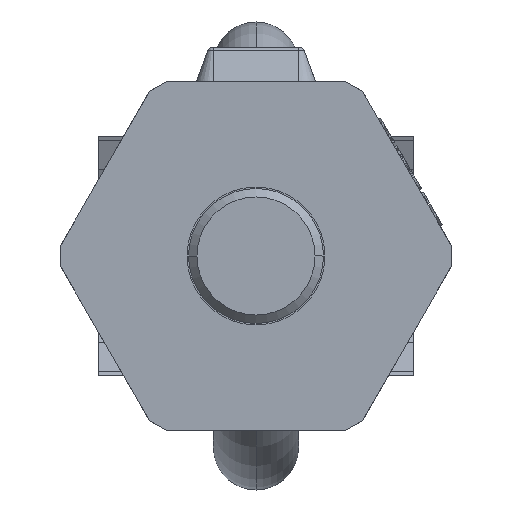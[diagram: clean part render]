
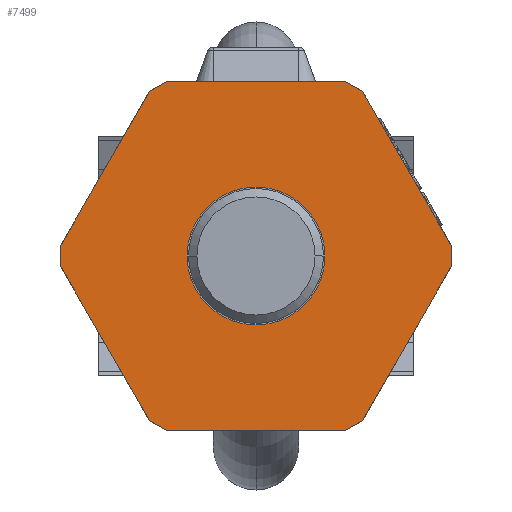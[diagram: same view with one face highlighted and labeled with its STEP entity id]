
A CAD part, front view. The second image highlights one B-rep face of the part: STEP entity #7499.
In plain terms, the highlighted planar face has unit normal (0, -1, 0) as drawn and (0, 0, -1) by its records, which use the part's own axes.
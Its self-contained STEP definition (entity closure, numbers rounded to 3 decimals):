
#1=DIRECTION('',(0.,-1.,0.));
#2=VECTOR('',#1,2.326);
#3=CARTESIAN_POINT('',(-23.,1.163,0.));
#4=LINE('',#3,#2);
#5=DIRECTION('',(0.5,-0.866,0.));
#6=VECTOR('',#5,20.986);
#7=CARTESIAN_POINT('',(-23.,-1.163,0.));
#8=LINE('',#7,#6);
#9=DIRECTION('',(0.866,-0.5,0.));
#10=VECTOR('',#9,2.326);
#11=CARTESIAN_POINT('',(-12.507,-19.337,0.));
#12=LINE('',#11,#10);
#13=DIRECTION('',(1.,0.,0.));
#14=VECTOR('',#13,20.986);
#15=CARTESIAN_POINT('',(-10.493,-20.5,0.));
#16=LINE('',#15,#14);
#17=DIRECTION('',(0.866,0.5,0.));
#18=VECTOR('',#17,2.326);
#19=CARTESIAN_POINT('',(10.493,-20.5,0.));
#20=LINE('',#19,#18);
#21=DIRECTION('',(0.5,0.866,0.));
#22=VECTOR('',#21,20.986);
#23=CARTESIAN_POINT('',(12.507,-19.337,0.));
#24=LINE('',#23,#22);
#25=DIRECTION('',(0.,1.,0.));
#26=VECTOR('',#25,2.326);
#27=CARTESIAN_POINT('',(23.,-1.163,0.));
#28=LINE('',#27,#26);
#29=DIRECTION('',(-0.5,0.866,0.));
#30=VECTOR('',#29,20.986);
#31=CARTESIAN_POINT('',(23.,1.163,0.));
#32=LINE('',#31,#30);
#33=DIRECTION('',(-0.866,0.5,0.));
#34=VECTOR('',#33,2.326);
#35=CARTESIAN_POINT('',(12.507,19.337,0.));
#36=LINE('',#35,#34);
#37=DIRECTION('',(-1.,0.,0.));
#38=VECTOR('',#37,20.986);
#39=CARTESIAN_POINT('',(10.493,20.5,0.));
#40=LINE('',#39,#38);
#41=DIRECTION('',(-0.866,-0.5,0.));
#42=VECTOR('',#41,2.326);
#43=CARTESIAN_POINT('',(-10.493,20.5,0.));
#44=LINE('',#43,#42);
#45=DIRECTION('',(-0.5,-0.866,0.));
#46=VECTOR('',#45,20.986);
#47=CARTESIAN_POINT('',(-12.507,19.337,0.));
#48=LINE('',#47,#46);
#49=CARTESIAN_POINT('',(0.,0.,0.));
#50=DIRECTION('',(0.,0.,1.));
#51=DIRECTION('',(0.,1.,0.));
#52=AXIS2_PLACEMENT_3D('',#49,#50,#51);
#54=CARTESIAN_POINT('',(0.,0.,0.));
#55=DIRECTION('',(0.,0.,1.));
#56=DIRECTION('',(0.,-1.,0.));
#57=AXIS2_PLACEMENT_3D('',#54,#55,#56);
#5668=CARTESIAN_POINT('',(-23.,1.163,0.));
#5669=CARTESIAN_POINT('',(-23.,-1.163,0.));
#5670=VERTEX_POINT('',#5668);
#5671=VERTEX_POINT('',#5669);
#5672=CARTESIAN_POINT('',(23.,-1.163,0.));
#5673=CARTESIAN_POINT('',(23.,1.163,0.));
#5674=VERTEX_POINT('',#5672);
#5675=VERTEX_POINT('',#5673);
#5676=CARTESIAN_POINT('',(12.507,19.337,0.));
#5677=CARTESIAN_POINT('',(10.493,20.5,0.));
#5678=VERTEX_POINT('',#5676);
#5679=VERTEX_POINT('',#5677);
#5680=CARTESIAN_POINT('',(-12.507,-19.337,0.));
#5681=CARTESIAN_POINT('',(-10.493,-20.5,0.));
#5682=VERTEX_POINT('',#5680);
#5683=VERTEX_POINT('',#5681);
#5684=CARTESIAN_POINT('',(10.493,-20.5,0.));
#5685=CARTESIAN_POINT('',(12.507,-19.337,0.));
#5686=VERTEX_POINT('',#5684);
#5687=VERTEX_POINT('',#5685);
#5688=CARTESIAN_POINT('',(-10.493,20.5,0.));
#5689=CARTESIAN_POINT('',(-12.507,19.337,0.));
#5690=VERTEX_POINT('',#5688);
#5691=VERTEX_POINT('',#5689);
#5716=CARTESIAN_POINT('',(0.,8.1,0.));
#5717=CARTESIAN_POINT('',(0.,-8.1,0.));
#5718=VERTEX_POINT('',#5716);
#5719=VERTEX_POINT('',#5717);
#7462=CARTESIAN_POINT('',(0.,0.,0.));
#7463=DIRECTION('',(0.,0.,1.));
#7464=DIRECTION('',(1.,0.,0.));
#7465=AXIS2_PLACEMENT_3D('',#7462,#7463,#7464);
#7466=PLANE('',#7465);
#7468=ORIENTED_EDGE('',*,*,#7467,.T.);
#7470=ORIENTED_EDGE('',*,*,#7469,.T.);
#7472=ORIENTED_EDGE('',*,*,#7471,.T.);
#7474=ORIENTED_EDGE('',*,*,#7473,.T.);
#7476=ORIENTED_EDGE('',*,*,#7475,.T.);
#7478=ORIENTED_EDGE('',*,*,#7477,.T.);
#7480=ORIENTED_EDGE('',*,*,#7479,.T.);
#7482=ORIENTED_EDGE('',*,*,#7481,.T.);
#7484=ORIENTED_EDGE('',*,*,#7483,.T.);
#7486=ORIENTED_EDGE('',*,*,#7485,.T.);
#7488=ORIENTED_EDGE('',*,*,#7487,.T.);
#7490=ORIENTED_EDGE('',*,*,#7489,.T.);
#7491=EDGE_LOOP('',(#7468,#7470,#7472,#7474,#7476,#7478,#7480,#7482,#7484,#7486,
#7488,#7490));
#7492=FACE_OUTER_BOUND('',#7491,.F.);
#7494=ORIENTED_EDGE('',*,*,#7493,.F.);
#7496=ORIENTED_EDGE('',*,*,#7495,.F.);
#7497=EDGE_LOOP('',(#7494,#7496));
#7498=FACE_BOUND('',#7497,.F.);
#7499=ADVANCED_FACE('',(#7492,#7498),#7466,.F.);
#53=CIRCLE('',#52,8.1);
#58=CIRCLE('',#57,8.1);
#7467=EDGE_CURVE('',#5670,#5671,#4,.T.);
#7469=EDGE_CURVE('',#5671,#5682,#8,.T.);
#7471=EDGE_CURVE('',#5682,#5683,#12,.T.);
#7473=EDGE_CURVE('',#5683,#5686,#16,.T.);
#7475=EDGE_CURVE('',#5686,#5687,#20,.T.);
#7477=EDGE_CURVE('',#5687,#5674,#24,.T.);
#7479=EDGE_CURVE('',#5674,#5675,#28,.T.);
#7481=EDGE_CURVE('',#5675,#5678,#32,.T.);
#7483=EDGE_CURVE('',#5678,#5679,#36,.T.);
#7485=EDGE_CURVE('',#5679,#5690,#40,.T.);
#7487=EDGE_CURVE('',#5690,#5691,#44,.T.);
#7489=EDGE_CURVE('',#5691,#5670,#48,.T.);
#7493=EDGE_CURVE('',#5718,#5719,#53,.T.);
#7495=EDGE_CURVE('',#5719,#5718,#58,.T.);
